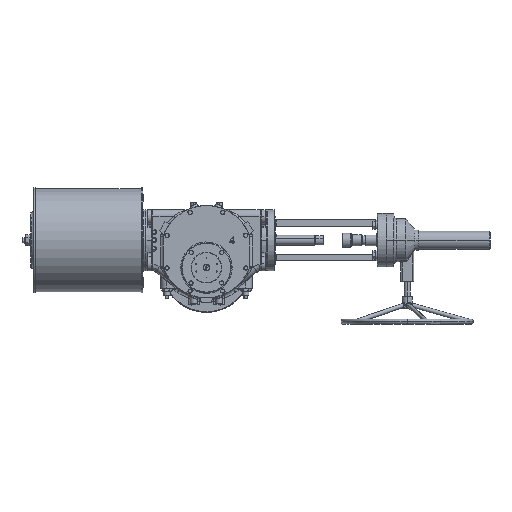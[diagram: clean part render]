
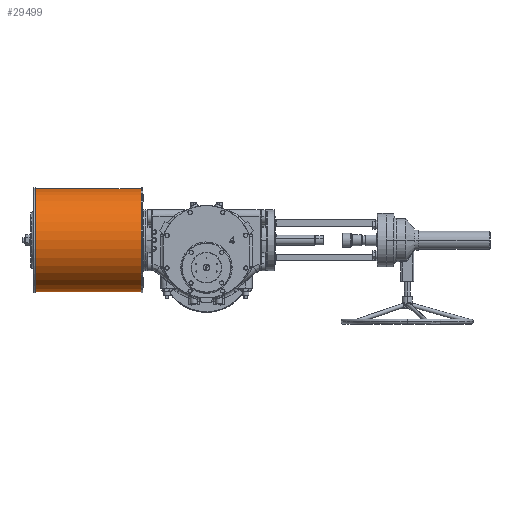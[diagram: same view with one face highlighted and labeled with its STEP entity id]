
A CAD part, top view. The second image highlights one B-rep face of the part: STEP entity #29499.
In plain terms, the highlighted cylindrical face has radius 203.2 mm (diameter 406.4 mm), a partial arc.
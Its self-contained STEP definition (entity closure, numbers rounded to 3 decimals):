
#627 = CARTESIAN_POINT ( 'NONE',  ( -256.5, 108., 82.5 ) ) ;
#1315 = CIRCLE ( 'NONE', #53569, 203.2 ) ;
#1721 = LINE ( 'NONE', #87019, #25028 ) ;
#4537 = CARTESIAN_POINT ( 'NONE',  ( -671.5, 108., 82.5 ) ) ;
#6604 = VERTEX_POINT ( 'NONE', #64836 ) ;
#9782 = LINE ( 'NONE', #79190, #62707 ) ;
#10145 = VERTEX_POINT ( 'NONE', #69134 ) ;
#12178 = AXIS2_PLACEMENT_3D ( 'NONE', #627, #56465, #83680 ) ;
#13675 = ORIENTED_EDGE ( 'NONE', *, *, #38572, .T. ) ;
#15016 = EDGE_CURVE ( 'NONE', #10145, #6604, #1315, .T. ) ;
#16326 = CARTESIAN_POINT ( 'NONE',  ( -671.5, 311.2, 82.5 ) ) ;
#16805 = VERTEX_POINT ( 'NONE', #35674 ) ;
#19569 = ORIENTED_EDGE ( 'NONE', *, *, #57608, .T. ) ;
#25028 = VECTOR ( 'NONE', #66147, 1000. ) ;
#25150 = EDGE_LOOP ( 'NONE', ( #76702, #13675, #19569, #57134 ) ) ;
#29499 = ADVANCED_FACE ( 'NONE', ( #50552 ), #63259, .T. ) ;
#33095 = DIRECTION ( 'NONE',  ( 0., -1., 0. ) ) ;
#35674 = CARTESIAN_POINT ( 'NONE',  ( -671.5, -95.2, 82.5 ) ) ;
#35814 = DIRECTION ( 'NONE',  ( -1., 0., 0. ) ) ;
#38572 = EDGE_CURVE ( 'NONE', #6604, #51273, #9782, .T. ) ;
#44441 = CARTESIAN_POINT ( 'NONE',  ( -256.5, 108., 82.5 ) ) ;
#46297 = DIRECTION ( 'NONE',  ( 1., 0., 0. ) ) ;
#50552 = FACE_OUTER_BOUND ( 'NONE', #25150, .T. ) ;
#50787 = DIRECTION ( 'NONE',  ( 0., -1., 0. ) ) ;
#51273 = VERTEX_POINT ( 'NONE', #16326 ) ;
#53569 = AXIS2_PLACEMENT_3D ( 'NONE', #44441, #35814, #50787 ) ;
#56465 = DIRECTION ( 'NONE',  ( -1., 0., 0. ) ) ;
#57134 = ORIENTED_EDGE ( 'NONE', *, *, #80348, .F. ) ;
#57608 = EDGE_CURVE ( 'NONE', #51273, #16805, #79304, .T. ) ;
#62707 = VECTOR ( 'NONE', #78734, 1000. ) ;
#63259 = CYLINDRICAL_SURFACE ( 'NONE', #12178, 203.2 ) ;
#64836 = CARTESIAN_POINT ( 'NONE',  ( -256.5, 311.2, 82.5 ) ) ;
#66147 = DIRECTION ( 'NONE',  ( -1., 0., 0. ) ) ;
#69134 = CARTESIAN_POINT ( 'NONE',  ( -256.5, -95.2, 82.5 ) ) ;
#76702 = ORIENTED_EDGE ( 'NONE', *, *, #15016, .T. ) ;
#78734 = DIRECTION ( 'NONE',  ( -1., 0., 0. ) ) ;
#79190 = CARTESIAN_POINT ( 'NONE',  ( -256.5, 311.2, 82.5 ) ) ;
#79304 = CIRCLE ( 'NONE', #86579, 203.2 ) ;
#80348 = EDGE_CURVE ( 'NONE', #10145, #16805, #1721, .T. ) ;
#83680 = DIRECTION ( 'NONE',  ( 0., -1., 0. ) ) ;
#86579 = AXIS2_PLACEMENT_3D ( 'NONE', #4537, #46297, #33095 ) ;
#87019 = CARTESIAN_POINT ( 'NONE',  ( -256.5, -95.2, 82.5 ) ) ;
